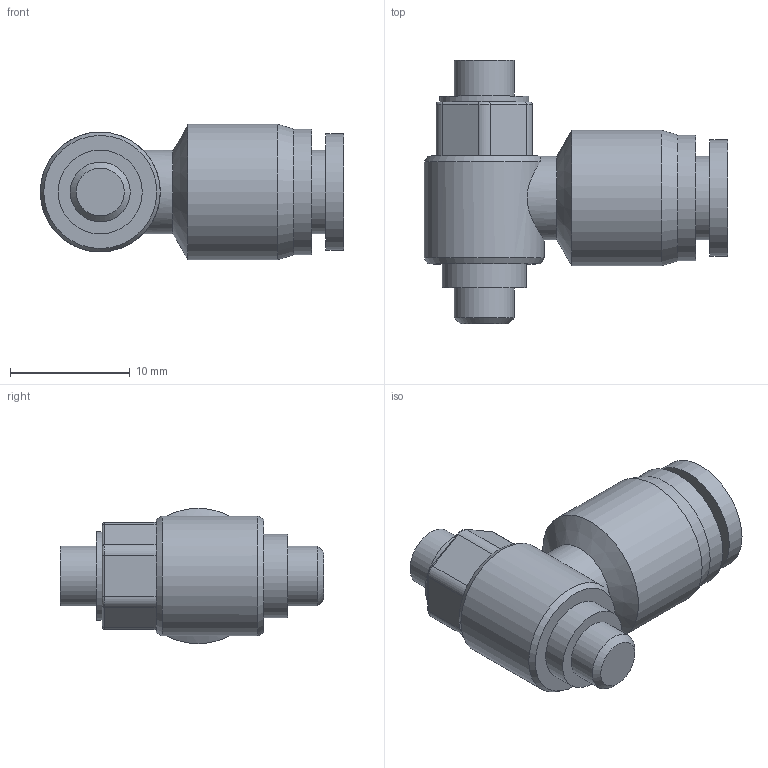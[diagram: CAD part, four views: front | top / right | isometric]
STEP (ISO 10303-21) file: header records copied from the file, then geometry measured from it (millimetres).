
FILE_DESCRIPTION((''),'2;1');
FILE_NAME('S:\UTecnico\ArchivioUT\Speciali Clienti\Speciali KONFIT\DISEGNI 3D\DP\DP 79\DP79CM504.stp','2013-01-07T09:10:57',('UT5'),(''),'Autodesk Inventor 2012','Autodesk Inventor 2012','');
FILE_SCHEMA(('AUTOMOTIVE_DESIGN { 1 0 10303 214 1 1 1 1 }'));
Length unit declared in the file: millimetre
Products named in the file (1): DP79CM504
Bounding box: 25.3 x 22 x 11.3 mm (x, y, z)
Volume: 2203.1 mm3; surface area: 1612.9 mm2
Topology: 1 solids, 1 shells, 56 faces, 118 edges, 72 vertices
Faces by surface type: cylinder 23, plane 21, cone 6, torus 6
Full cylindrical faces by diameter (mm): 4 x1, 5 x2, 7 x3, 7.4 x1, 9.7 x1, 10 x1, 10.5 x1, 11.3 x1
Entity records: 1470 total; most frequent: CARTESIAN_POINT 265, DIRECTION 264, ORIENTED_EDGE 198, AXIS2_PLACEMENT_3D 111, EDGE_CURVE 99, EDGE_LOOP 80, VERTEX_POINT 69, FACE_OUTER_BOUND 56
